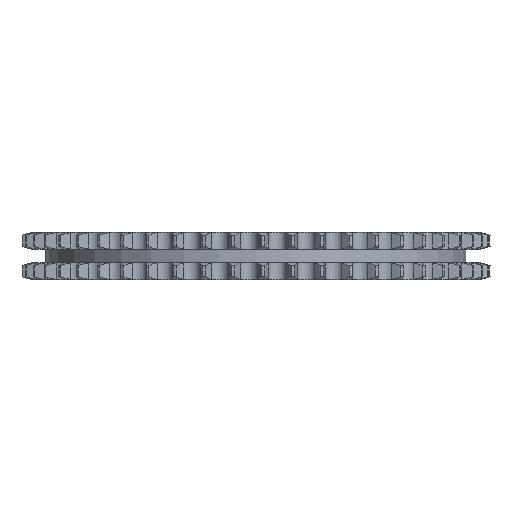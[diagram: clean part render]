
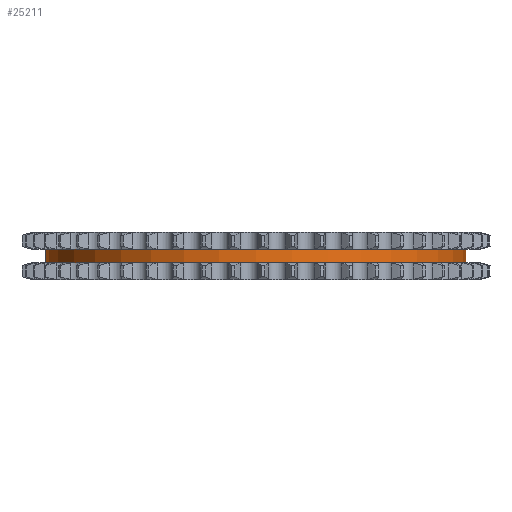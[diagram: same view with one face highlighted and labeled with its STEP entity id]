
A CAD part, left-side view. The second image highlights one B-rep face of the part: STEP entity #25211.
In plain terms, the highlighted cylindrical face has radius 113.888 mm (diameter 227.775 mm), a partial arc.
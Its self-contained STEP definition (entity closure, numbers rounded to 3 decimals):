
#5100=DIRECTION('',(0.,0.,-1.));
#5101=VECTOR('',#5100,7.3);
#5102=CARTESIAN_POINT('',(0.,113.888,3.65));
#5103=LINE('',#5102,#5101);
#5107=CARTESIAN_POINT('',(0.,0.,3.65));
#5108=DIRECTION('',(0.,0.,1.));
#5109=DIRECTION('',(0.,1.,0.));
#5110=AXIS2_PLACEMENT_3D('',#5107,#5108,#5109);
#5115=DIRECTION('',(0.,0.,-1.));
#5116=VECTOR('',#5115,7.3);
#5117=CARTESIAN_POINT('',(0.,-113.888,3.65));
#5118=LINE('',#5117,#5116);
#5122=CARTESIAN_POINT('',(0.,0.,-3.65));
#5123=DIRECTION('',(0.,0.,1.));
#5124=DIRECTION('',(0.,1.,0.));
#5125=AXIS2_PLACEMENT_3D('',#5122,#5123,#5124);
#18266=CARTESIAN_POINT('',(0.,113.888,3.65));
#18267=CARTESIAN_POINT('',(0.,113.888,-3.65));
#18268=VERTEX_POINT('',#18266);
#18269=VERTEX_POINT('',#18267);
#18270=CARTESIAN_POINT('',(0.,-113.888,3.65));
#18271=CARTESIAN_POINT('',(0.,-113.888,-3.65));
#18272=VERTEX_POINT('',#18270);
#18273=VERTEX_POINT('',#18271);
#25199=CARTESIAN_POINT('',(0.,0.,4.015));
#25200=DIRECTION('',(0.,0.,-1.));
#25201=DIRECTION('',(0.,-1.,0.));
#25202=AXIS2_PLACEMENT_3D('',#25199,#25200,#25201);
#25203=CYLINDRICAL_SURFACE('',#25202,113.888);
#25204=ORIENTED_EDGE('',*,*,#25189,.F.);
#25205=ORIENTED_EDGE('',*,*,#25179,.T.);
#25206=ORIENTED_EDGE('',*,*,#25193,.T.);
#25208=ORIENTED_EDGE('',*,*,#25207,.F.);
#25209=EDGE_LOOP('',(#25204,#25205,#25206,#25208));
#25210=FACE_OUTER_BOUND('',#25209,.F.);
#25211=ADVANCED_FACE('',(#25210),#25203,.T.);
#5111=CIRCLE('',#5110,113.888);
#5126=CIRCLE('',#5125,113.888);
#25179=EDGE_CURVE('',#18268,#18272,#5111,.T.);
#25189=EDGE_CURVE('',#18268,#18269,#5103,.T.);
#25193=EDGE_CURVE('',#18272,#18273,#5118,.T.);
#25207=EDGE_CURVE('',#18269,#18273,#5126,.T.);
